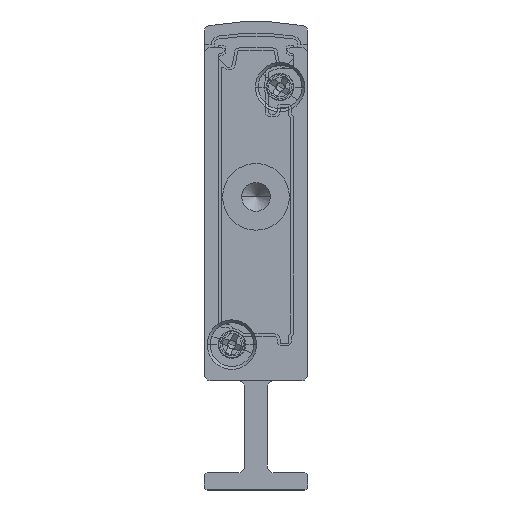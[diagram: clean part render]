
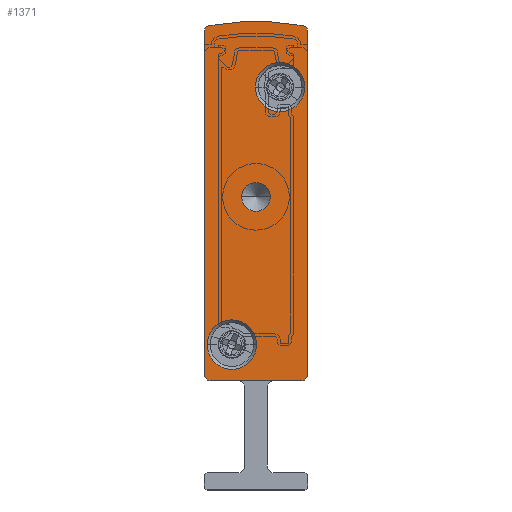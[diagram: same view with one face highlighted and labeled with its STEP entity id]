
A CAD part, front view. The second image highlights one B-rep face of the part: STEP entity #1371.
In plain terms, the highlighted planar face has unit normal (0, -1, 0).
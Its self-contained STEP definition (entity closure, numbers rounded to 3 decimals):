
#500 = VERTEX_POINT ( 'NONE', #980 ) ;
#908 = PLANE ( 'NONE',  #11516 ) ;
#980 = CARTESIAN_POINT ( 'NONE',  ( 3.25, -2.5, 25.5 ) ) ;
#1155 = CIRCLE ( 'NONE', #15039, 0.5 ) ;
#1371 = ADVANCED_FACE ( 'NONE', ( #28300, #24300, #10197, #8596 ), #908, .F. ) ;
#1449 = VERTEX_POINT ( 'NONE', #22194 ) ;
#1501 = DIRECTION ( 'NONE',  ( 1., 0., 0. ) ) ;
#2029 = CARTESIAN_POINT ( 'NONE',  ( 4.5, -2.5, 25.5 ) ) ;
#2299 = DIRECTION ( 'NONE',  ( -1., 0., 0. ) ) ;
#2643 = DIRECTION ( 'NONE',  ( -1., 0., 0. ) ) ;
#2849 = CARTESIAN_POINT ( 'NONE',  ( 4.55, -2.5, 12.65 ) ) ;
#3028 = DIRECTION ( 'NONE',  ( 0., -1., 0. ) ) ;
#3222 = DIRECTION ( 'NONE',  ( 0., -1., 0. ) ) ;
#3332 = CARTESIAN_POINT ( 'NONE',  ( 6.6, -2.5, 35.05 ) ) ;
#4035 = EDGE_LOOP ( 'NONE', ( #25059, #6555 ) ) ;
#4057 = ORIENTED_EDGE ( 'NONE', *, *, #15899, .F. ) ;
#4158 = VERTEX_POINT ( 'NONE', #30725 ) ;
#4351 = ORIENTED_EDGE ( 'NONE', *, *, #21808, .F. ) ;
#4703 = CIRCLE ( 'NONE', #29606, 0.5 ) ;
#4915 = ORIENTED_EDGE ( 'NONE', *, *, #27917, .F. ) ;
#5435 = VERTEX_POINT ( 'NONE', #21488 ) ;
#6134 = AXIS2_PLACEMENT_3D ( 'NONE', #31392, #18673, #15824 ) ;
#6269 = AXIS2_PLACEMENT_3D ( 'NONE', #17166, #24586, #1501 ) ;
#6555 = ORIENTED_EDGE ( 'NONE', *, *, #15702, .F. ) ;
#7107 = AXIS2_PLACEMENT_3D ( 'NONE', #11784, #22377, #24827 ) ;
#7234 = CIRCLE ( 'NONE', #6269, 2.15 ) ;
#7385 = CARTESIAN_POINT ( 'NONE',  ( 8.75, -2.5, 35.05 ) ) ;
#7753 = ORIENTED_EDGE ( 'NONE', *, *, #12123, .T. ) ;
#8596 = FACE_BOUND ( 'NONE', #31579, .T. ) ;
#8610 = EDGE_CURVE ( 'NONE', #500, #10846, #26935, .T. ) ;
#8633 = AXIS2_PLACEMENT_3D ( 'NONE', #30296, #29761, #2643 ) ;
#9098 = EDGE_CURVE ( 'NONE', #13491, #22864, #32876, .T. ) ;
#9785 = CARTESIAN_POINT ( 'NONE',  ( 4.5, -2.5, 17.092 ) ) ;
#10197 = FACE_OUTER_BOUND ( 'NONE', #28795, .T. ) ;
#10441 = VERTEX_POINT ( 'NONE', #30072 ) ;
#10530 = VERTEX_POINT ( 'NONE', #7385 ) ;
#10612 = ORIENTED_EDGE ( 'NONE', *, *, #22633, .F. ) ;
#10846 = VERTEX_POINT ( 'NONE', #31954 ) ;
#11134 = EDGE_LOOP ( 'NONE', ( #4351, #16777 ) ) ;
#11212 = VERTEX_POINT ( 'NONE', #26403 ) ;
#11516 = AXIS2_PLACEMENT_3D ( 'NONE', #22299, #16778, #24421 ) ;
#11784 = CARTESIAN_POINT ( 'NONE',  ( 4.5, -2.5, 25.5 ) ) ;
#11907 = CARTESIAN_POINT ( 'NONE',  ( 0., -2.5, 39.902 ) ) ;
#12123 = EDGE_CURVE ( 'NONE', #10846, #500, #26891, .T. ) ;
#13491 = VERTEX_POINT ( 'NONE', #23825 ) ;
#13650 = CIRCLE ( 'NONE', #6134, 2.15 ) ;
#13922 = VECTOR ( 'NONE', #32517, 1000. ) ;
#14474 = VERTEX_POINT ( 'NONE', #21193 ) ;
#14644 = ORIENTED_EDGE ( 'NONE', *, *, #32907, .F. ) ;
#14917 = DIRECTION ( 'NONE',  ( 0., 1., 0. ) ) ;
#14977 = ORIENTED_EDGE ( 'NONE', *, *, #23612, .F. ) ;
#15039 = AXIS2_PLACEMENT_3D ( 'NONE', #28132, #30463, #2299 ) ;
#15702 = EDGE_CURVE ( 'NONE', #14474, #10530, #22069, .T. ) ;
#15824 = DIRECTION ( 'NONE',  ( 1., 0., 0. ) ) ;
#15899 = EDGE_CURVE ( 'NONE', #32828, #26653, #21641, .T. ) ;
#16730 = CARTESIAN_POINT ( 'NONE',  ( 0., -2.5, 10. ) ) ;
#16777 = ORIENTED_EDGE ( 'NONE', *, *, #31929, .F. ) ;
#16778 = DIRECTION ( 'NONE',  ( 0., 1., 0. ) ) ;
#17166 = CARTESIAN_POINT ( 'NONE',  ( 2.4, -2.5, 12.65 ) ) ;
#17417 = EDGE_CURVE ( 'NONE', #22864, #5435, #4703, .T. ) ;
#17564 = DIRECTION ( 'NONE',  ( -1., 0., 0. ) ) ;
#18046 = CIRCLE ( 'NONE', #24617, 2.15 ) ;
#18484 = CARTESIAN_POINT ( 'NONE',  ( 6.6, -2.5, 35.05 ) ) ;
#18673 = DIRECTION ( 'NONE',  ( 0., -1., 0. ) ) ;
#19640 = DIRECTION ( 'NONE',  ( -1., 0., 0. ) ) ;
#19987 = CARTESIAN_POINT ( 'NONE',  ( 0.5, -2.5, 9.5 ) ) ;
#20052 = DIRECTION ( 'NONE',  ( 0., 1., 0. ) ) ;
#20288 = AXIS2_PLACEMENT_3D ( 'NONE', #9785, #27792, #30321 ) ;
#20456 = VECTOR ( 'NONE', #19640, 1000. ) ;
#20464 = ORIENTED_EDGE ( 'NONE', *, *, #8610, .T. ) ;
#21068 = DIRECTION ( 'NONE',  ( 1., 0., 0. ) ) ;
#21193 = CARTESIAN_POINT ( 'NONE',  ( 4.45, -2.5, 35.05 ) ) ;
#21258 = LINE ( 'NONE', #19987, #20456 ) ;
#21488 = CARTESIAN_POINT ( 'NONE',  ( 9., -2.5, 39.902 ) ) ;
#21641 = CIRCLE ( 'NONE', #22488, 0.5 ) ;
#21808 = EDGE_CURVE ( 'NONE', #30854, #4158, #13650, .T. ) ;
#21965 = DIRECTION ( 'NONE',  ( 0., 0., 1. ) ) ;
#22069 = CIRCLE ( 'NONE', #26524, 2.15 ) ;
#22194 = CARTESIAN_POINT ( 'NONE',  ( 9., -2.5, 10. ) ) ;
#22299 = CARTESIAN_POINT ( 'NONE',  ( 0.5, -2.5, 39.902 ) ) ;
#22377 = DIRECTION ( 'NONE',  ( 0., 1., 0. ) ) ;
#22378 = CARTESIAN_POINT ( 'NONE',  ( 8.5, -2.5, 39.902 ) ) ;
#22488 = AXIS2_PLACEMENT_3D ( 'NONE', #22591, #14917, #32422 ) ;
#22591 = CARTESIAN_POINT ( 'NONE',  ( 0.5, -2.5, 10. ) ) ;
#22633 = EDGE_CURVE ( 'NONE', #5435, #1449, #23149, .T. ) ;
#22661 = ORIENTED_EDGE ( 'NONE', *, *, #17417, .F. ) ;
#22864 = VERTEX_POINT ( 'NONE', #23068 ) ;
#23068 = CARTESIAN_POINT ( 'NONE',  ( 8.592, -2.5, 40.393 ) ) ;
#23149 = LINE ( 'NONE', #24802, #13922 ) ;
#23612 = EDGE_CURVE ( 'NONE', #11212, #13491, #1155, .T. ) ;
#23825 = CARTESIAN_POINT ( 'NONE',  ( 0.408, -2.5, 40.393 ) ) ;
#23914 = ORIENTED_EDGE ( 'NONE', *, *, #9098, .F. ) ;
#24300 = FACE_BOUND ( 'NONE', #11134, .T. ) ;
#24421 = DIRECTION ( 'NONE',  ( -1., 0., 0. ) ) ;
#24586 = DIRECTION ( 'NONE',  ( 0., -1., 0. ) ) ;
#24617 = AXIS2_PLACEMENT_3D ( 'NONE', #18484, #3028, #21068 ) ;
#24802 = CARTESIAN_POINT ( 'NONE',  ( 9., -2.5, 39.902 ) ) ;
#24827 = DIRECTION ( 'NONE',  ( -1., 0., 0. ) ) ;
#24829 = DIRECTION ( 'NONE',  ( -1., 0., 0. ) ) ;
#25059 = ORIENTED_EDGE ( 'NONE', *, *, #32309, .F. ) ;
#26279 = EDGE_CURVE ( 'NONE', #26653, #11212, #27672, .T. ) ;
#26403 = CARTESIAN_POINT ( 'NONE',  ( 0., -2.5, 39.902 ) ) ;
#26459 = VECTOR ( 'NONE', #21965, 1000. ) ;
#26524 = AXIS2_PLACEMENT_3D ( 'NONE', #3332, #3222, #29173 ) ;
#26653 = VERTEX_POINT ( 'NONE', #16730 ) ;
#26789 = ORIENTED_EDGE ( 'NONE', *, *, #26279, .F. ) ;
#26891 = CIRCLE ( 'NONE', #31971, 1.25 ) ;
#26912 = CARTESIAN_POINT ( 'NONE',  ( 0.5, -2.5, 9.5 ) ) ;
#26935 = CIRCLE ( 'NONE', #7107, 1.25 ) ;
#27672 = LINE ( 'NONE', #11907, #26459 ) ;
#27792 = DIRECTION ( 'NONE',  ( 0., 1., 0. ) ) ;
#27917 = EDGE_CURVE ( 'NONE', #1449, #10441, #30208, .T. ) ;
#28132 = CARTESIAN_POINT ( 'NONE',  ( 0.5, -2.5, 39.902 ) ) ;
#28300 = FACE_BOUND ( 'NONE', #4035, .T. ) ;
#28795 = EDGE_LOOP ( 'NONE', ( #14977, #26789, #4057, #14644, #4915, #10612, #22661, #23914 ) ) ;
#29173 = DIRECTION ( 'NONE',  ( 1., 0., 0. ) ) ;
#29606 = AXIS2_PLACEMENT_3D ( 'NONE', #22378, #29831, #24829 ) ;
#29761 = DIRECTION ( 'NONE',  ( 0., 1., 0. ) ) ;
#29831 = DIRECTION ( 'NONE',  ( 0., 1., 0. ) ) ;
#30072 = CARTESIAN_POINT ( 'NONE',  ( 8.5, -2.5, 9.5 ) ) ;
#30208 = CIRCLE ( 'NONE', #8633, 0.5 ) ;
#30296 = CARTESIAN_POINT ( 'NONE',  ( 8.5, -2.5, 10. ) ) ;
#30321 = DIRECTION ( 'NONE',  ( -1., 0., 0. ) ) ;
#30463 = DIRECTION ( 'NONE',  ( 0., 1., 0. ) ) ;
#30725 = CARTESIAN_POINT ( 'NONE',  ( 0.25, -2.5, 12.65 ) ) ;
#30854 = VERTEX_POINT ( 'NONE', #2849 ) ;
#31392 = CARTESIAN_POINT ( 'NONE',  ( 2.4, -2.5, 12.65 ) ) ;
#31579 = EDGE_LOOP ( 'NONE', ( #20464, #7753 ) ) ;
#31929 = EDGE_CURVE ( 'NONE', #4158, #30854, #7234, .T. ) ;
#31954 = CARTESIAN_POINT ( 'NONE',  ( 5.75, -2.5, 25.5 ) ) ;
#31971 = AXIS2_PLACEMENT_3D ( 'NONE', #2029, #20052, #17564 ) ;
#32309 = EDGE_CURVE ( 'NONE', #10530, #14474, #18046, .T. ) ;
#32422 = DIRECTION ( 'NONE',  ( -1., 0., 0. ) ) ;
#32517 = DIRECTION ( 'NONE',  ( 0., 0., -1. ) ) ;
#32828 = VERTEX_POINT ( 'NONE', #26912 ) ;
#32876 = CIRCLE ( 'NONE', #20288, 23.658 ) ;
#32907 = EDGE_CURVE ( 'NONE', #10441, #32828, #21258, .T. ) ;
